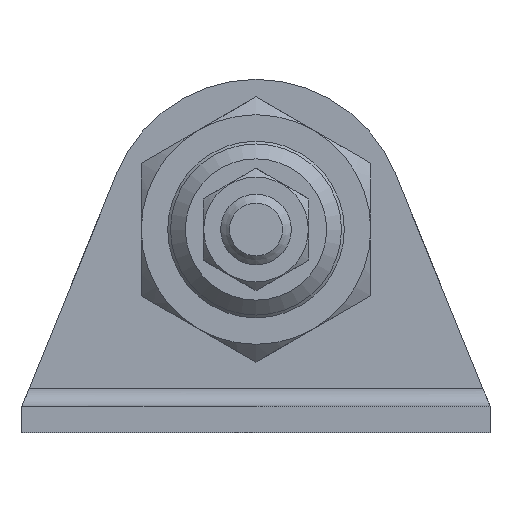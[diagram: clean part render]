
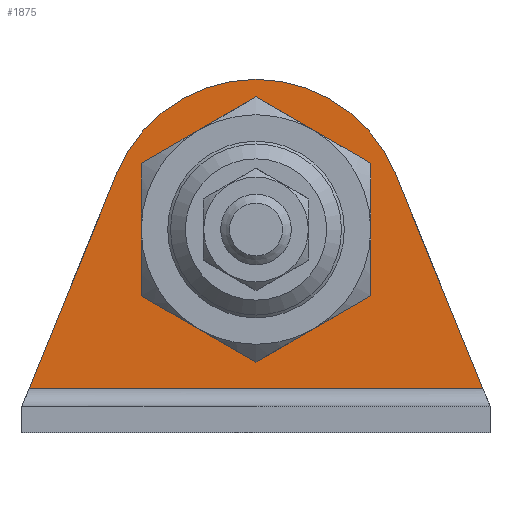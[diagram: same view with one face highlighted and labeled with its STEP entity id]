
A CAD part, front view. The second image highlights one B-rep face of the part: STEP entity #1875.
In plain terms, the highlighted planar face has unit normal (0, -1, 0).
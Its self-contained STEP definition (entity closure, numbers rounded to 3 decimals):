
#52=LINE('',#2866,#106);
#57=LINE('',#2884,#111);
#58=LINE('',#2891,#112);
#106=VECTOR('',#2395,1000.);
#111=VECTOR('',#2412,1000.);
#112=VECTOR('',#2421,1000.);
#239=PLANE('',#2067);
#308=CIRCLE('',#2061,17.);
#309=CIRCLE('',#2065,10.);
#541=ORIENTED_EDGE('',*,*,#750,.F.);
#542=ORIENTED_EDGE('',*,*,#749,.T.);
#543=ORIENTED_EDGE('',*,*,#752,.T.);
#544=ORIENTED_EDGE('',*,*,#740,.T.);
#545=ORIENTED_EDGE('',*,*,#745,.T.);
#740=EDGE_CURVE('',#872,#871,#52,.T.);
#745=EDGE_CURVE('',#871,#875,#308,.T.);
#749=EDGE_CURVE('',#875,#878,#57,.T.);
#750=EDGE_CURVE('',#879,#879,#309,.T.);
#752=EDGE_CURVE('',#878,#872,#58,.T.);
#871=VERTEX_POINT('',#2865);
#872=VERTEX_POINT('',#2867);
#875=VERTEX_POINT('',#2875);
#878=VERTEX_POINT('',#2883);
#879=VERTEX_POINT('',#2887);
#1048=EDGE_LOOP('',(#541));
#1049=EDGE_LOOP('',(#542,#543,#544,#545));
#1196=FACE_BOUND('',#1048,.T.);
#1197=FACE_BOUND('',#1049,.T.);
#1875=ADVANCED_FACE('',(#1196,#1197),#239,.T.);
#2061=AXIS2_PLACEMENT_3D('',#2876,#2404,#2405);
#2065=AXIS2_PLACEMENT_3D('',#2886,#2415,#2416);
#2067=AXIS2_PLACEMENT_3D('',#2890,#2419,#2420);
#2395=DIRECTION('',(-0.377,0.,0.926));
#2404=DIRECTION('',(0.,-1.,0.));
#2405=DIRECTION('',(1.,0.,0.));
#2412=DIRECTION('',(-0.377,0.,-0.926));
#2415=DIRECTION('',(0.,-1.,0.));
#2416=DIRECTION('',(1.,0.,0.));
#2419=DIRECTION('',(0.,-1.,0.));
#2420=DIRECTION('',(0.,0.,-1.));
#2421=DIRECTION('',(1.,0.,0.));
#2865=CARTESIAN_POINT('',(15.745,-3.,6.412));
#2866=CARTESIAN_POINT('',(26.5,-3.,-20.));
#2867=CARTESIAN_POINT('',(25.686,-3.,-18.));
#2875=CARTESIAN_POINT('',(-15.745,-3.,6.412));
#2876=CARTESIAN_POINT('',(0.,-3.,0.));
#2883=CARTESIAN_POINT('',(-25.686,-3.,-18.));
#2884=CARTESIAN_POINT('',(-26.5,-3.,-20.));
#2886=CARTESIAN_POINT('',(0.,-3.,0.));
#2887=CARTESIAN_POINT('',(10.,-3.,0.));
#2890=CARTESIAN_POINT('',(0.,-3.,0.));
#2891=CARTESIAN_POINT('',(26.5,-3.,-18.));
